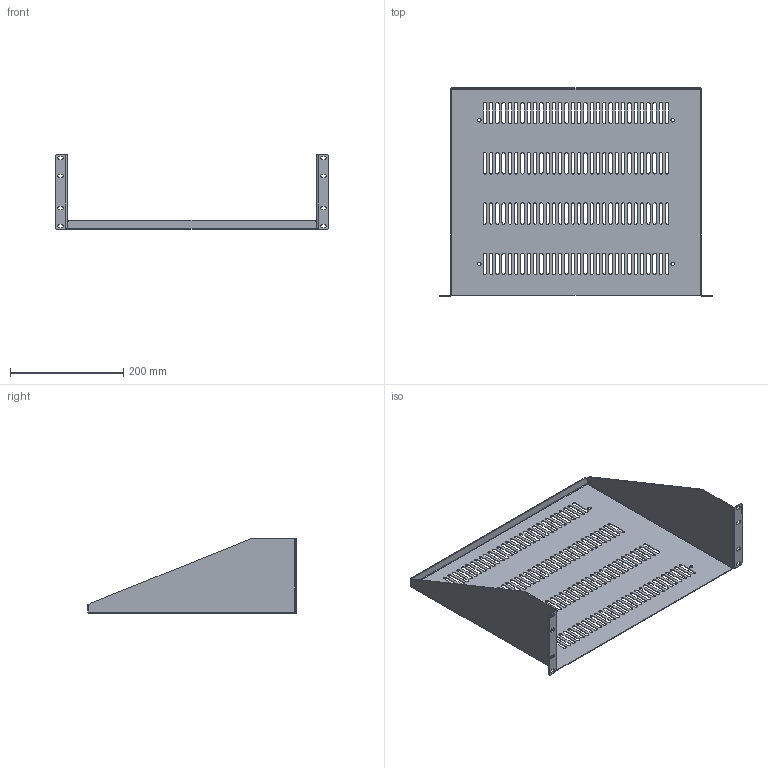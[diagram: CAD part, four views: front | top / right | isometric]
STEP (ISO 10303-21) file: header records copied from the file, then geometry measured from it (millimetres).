
FILE_DESCRIPTION( ( 'Unknown' ), '1' );
FILE_NAME( 'Q:/ACCESSORIES/SHELVES/RAS/WEB DRAWINGS/STEP/RASVL190514.stp', 'Unknown', ( 'Unknown' ), ( 'Unknown' ), 'PSStep 10.1', 'Unknown', ' ' );
FILE_SCHEMA( ( 'AUTOMOTIVE_DESIGN { 1 0 10303 214 1 1 1 1 }' ) );
Length unit declared in the file: millimetre
Products named in the file (1): 1
Bounding box: 482.75 x 368.3 x 132.54 mm (x, y, z)
Volume: 303268.3 mm3; surface area: 436775.5 mm2
Topology: 1 solids, 1 shells, 582 faces, 1720 edges, 1140 vertices
Faces by surface type: plane 298, cylinder 280, bspline 4
Full cylindrical faces by diameter (mm): 6.35 x4
Entity records: 24948 total; most frequent: CARTESIAN_POINT 3743, ORIENTED_EDGE 3424, DIRECTION 3410, EDGE_CURVE 1712, AXIS2_PLACEMENT_3D 1139, VERTEX_POINT 1136, LINE 1132, VECTOR 1132
